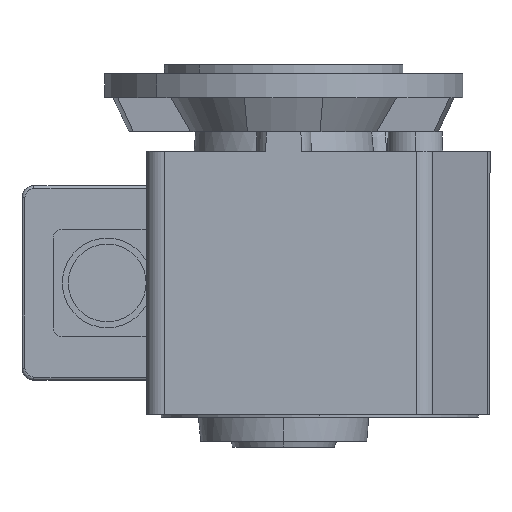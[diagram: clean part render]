
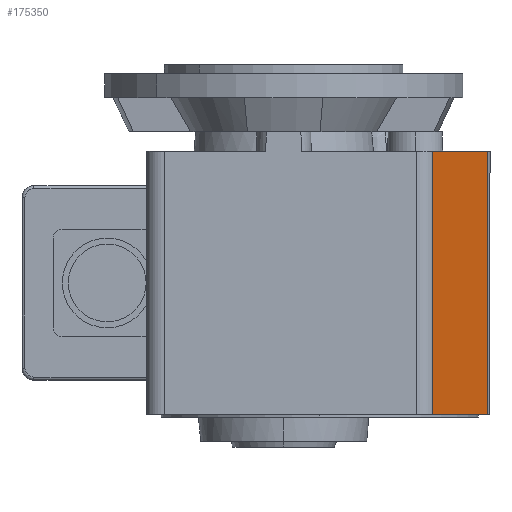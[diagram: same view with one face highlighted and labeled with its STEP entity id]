
A CAD part, left-side view. The second image highlights one B-rep face of the part: STEP entity #175350.
In plain terms, the highlighted planar face has unit normal (-0.5, -0.866, 0) as drawn and (0, -0.866, 0.5) by its records, which use the part's own axes.
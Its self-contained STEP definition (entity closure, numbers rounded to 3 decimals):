
#111000=CARTESIAN_POINT('',(-177.458,-344.21,259.5));
#111010=VERTEX_POINT('',#111000);
#111040=CARTESIAN_POINT('',(-177.458,-342.478,262.5));
#111050=DIRECTION('',(0.,0.5,0.866));
#111060=VECTOR('',#111050,1.);
#111070=LINE('',#111040,#111060);
#111080=CARTESIAN_POINT('',(-177.458,-362.674,
227.519));
#111090=VERTEX_POINT('',#111080);
#111100=EDGE_CURVE('',#111090,#111010,#111070,.T.);
#175050=CARTESIAN_POINT('',(-80.658,-368.278,
217.812));
#175060=DIRECTION('',(0.,0.866,-0.5));
#175070=DIRECTION('',(0.,0.5,0.866));
#175080=AXIS2_PLACEMENT_3D('',#175050,#175060,#175070);
#175090=PLANE('',#175080);
#175100=ORIENTED_EDGE('',*,*,#111100,.F.);
#175110=CARTESIAN_POINT('',(-172.685,-344.21,259.5));
#175120=DIRECTION('',(-1.,0.,0.));
#175130=VECTOR('',#175120,1.);
#175140=LINE('',#175110,#175130);
#175150=CARTESIAN_POINT('',(-89.458,-344.21,259.5));
#175160=VERTEX_POINT('',#175150);
#175170=EDGE_CURVE('',#175160,#111010,#175140,.T.);
#175180=ORIENTED_EDGE('',*,*,#175170,.T.);
#175190=CARTESIAN_POINT('',(-89.458,-342.478,262.5));
#175200=DIRECTION('',(0.,-0.5,-0.866));
#175210=VECTOR('',#175200,1.);
#175220=LINE('',#175190,#175210);
#175230=CARTESIAN_POINT('',(-89.458,-362.674,
227.519));
#175240=VERTEX_POINT('',#175230);
#175250=EDGE_CURVE('',#175160,#175240,#175220,.T.);
#175260=ORIENTED_EDGE('',*,*,#175250,.F.);
#175270=CARTESIAN_POINT('',(-172.685,-362.674,
227.519));
#175280=DIRECTION('',(1.,0.,0.));
#175290=VECTOR('',#175280,1.);
#175300=LINE('',#175270,#175290);
#175310=EDGE_CURVE('',#111090,#175240,#175300,.T.);
#175320=ORIENTED_EDGE('',*,*,#175310,.T.);
#175330=EDGE_LOOP('',(#175320,#175260,#175180,#175100));
#175340=FACE_OUTER_BOUND('',#175330,.T.);
#175350=ADVANCED_FACE('',(#175340),#175090,.F.);
